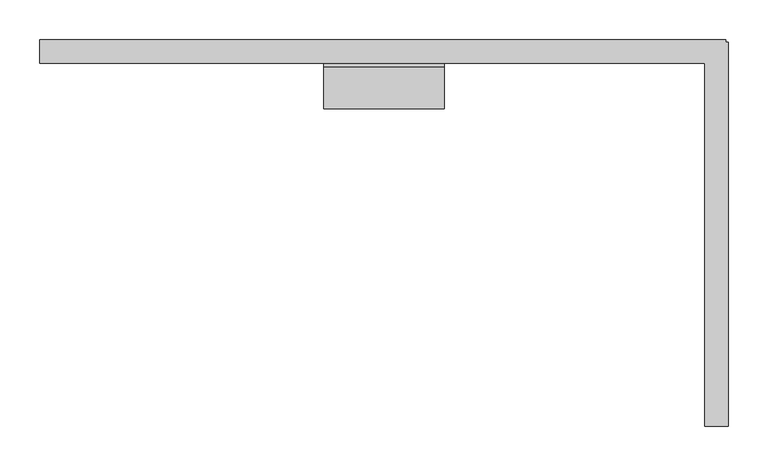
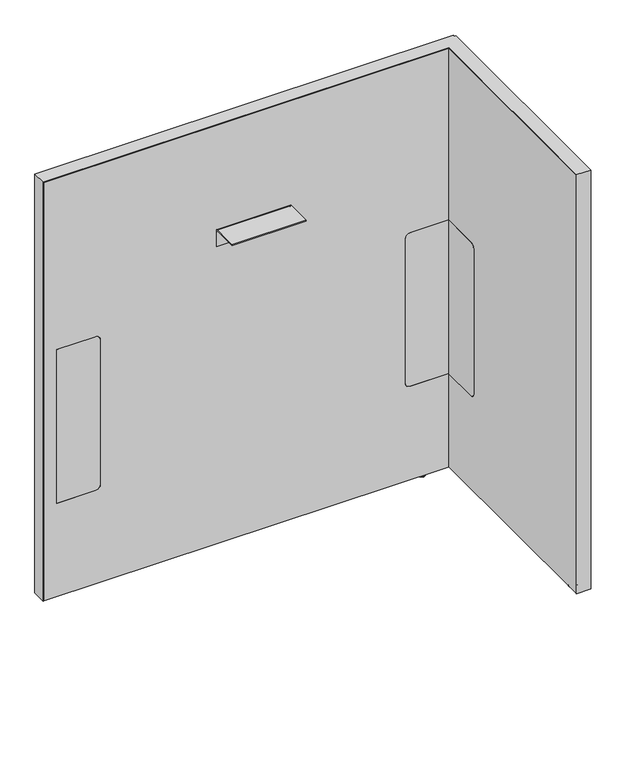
"""IFC4 building model written with IfcOpenShell, lengths in millimetres: furniture geometry, Steelcase - Answer Solution - Boundary Screen - L Return - Single Sided : 36H x 33W."""

from ifc_helpers import new_model, si_unit, point, frame, frame_2d, origin, place, context, project, spatial, polyline, circle_curve, ellipse_curve, trimmed, segment, composite_curve, outline, extrude, faceted_brep, source, transform, mapped, element, save
from ifc_brep_helpers import plane_surface, cylinder_surface, revolved_surface, advanced_brep


def furniture_d4964fc3(model_context):
    return source(origin(), model_context, "Body", "SolidModel", [
        extrude(outline(composite_curve([segment(polyline([(-109.3501471, 549.6162029), (-29.0550397, 549.6162029), (-29.0550397, 213.7762137), (-109.3501471, 213.7762137)]), True, "CONTINUOUS"), segment(trimmed(circle_curve(frame_2d((-109.3501471, 223.9362137)), 10.16), [point((-109.3501471, 213.7762137))], [point((-119.5101471, 223.9362137))], False, "CARTESIAN"), True, "CONTINUOUS"), segment(polyline([(-119.5101471, 223.9362137), (-119.5101471, 539.4562029)]), True, "CONTINUOUS"), segment(trimmed(circle_curve(frame_2d((-109.3501471, 539.4562029)), 10.16), [point((-119.5101471, 539.4562029))], [point((-109.3501471, 549.6162029))], False, "CARTESIAN"), True, "CONTINUOUS")], self_intersect=False)), frame((1068.0191891, 0.0, 0.0), z_axis=(1.0, 0.0, 0.0), x_axis=(0.0, 1.0, 0.0)), (0.0, 0.0, 1.0), 0.6401544),
        advanced_brep(
        [(1082.8672074, -448.0136072, 0.0), (1089.8216144, -448.0136072, 0.0), (1075.9128003, -448.0136072, 0.0), (1091.2762685, -448.0136072, 1.2700001), (1074.4581463, -448.0136072, 1.2700001), (1091.2762685, -448.0136072, 2.9673238), (1074.4581463, -448.0136072, 2.9673238), (1092.2427877, -448.0136072, 2.9673238), (1073.491627, -448.0136072, 2.9673238), (1092.2427877, -448.0136072, 9.9059849), (1073.491627, -448.0136072, 9.9059849), (1082.8672074, -448.0136072, 9.9059849)],
        [
            (0, 1),
            (1, 2, circle_curve(frame((1082.8672074, -448.0136072, 0.0), z_axis=(0.0, 0.0, -1.0), x_axis=(1.0, 0.0, 0.0)), 6.9544071)),
            (2, 0),
            (2, 1, circle_curve(frame((1082.8672074, -448.0136072, 0.0), z_axis=(0.0, 0.0, -1.0), x_axis=(1.0, 0.0, 0.0)), 6.9544071)),
            (1, 3, circle_curve(frame((1089.9945484, -448.0136072, 1.2700001), z_axis=(0.0, -1.0, 0.0), x_axis=(0.0, 0.0, 1.0)), 1.2817201)),
            (3, 4, circle_curve(frame((1082.8672074, -448.0136072, 1.2700001), z_axis=(0.0, 0.0, -1.0), x_axis=(1.0, 0.0, 0.0)), 8.4090611)),
            (4, 2, circle_curve(frame((1075.7398663, -448.0136072, 1.2700001), z_axis=(0.0, -1.0, 0.0), x_axis=(0.0, 0.0, 1.0)), 1.2817201)),
            (4, 3, circle_curve(frame((1082.8672074, -448.0136072, 1.2700001), z_axis=(0.0, 0.0, -1.0), x_axis=(1.0, 0.0, 0.0)), 8.4090611)),
            (3, 5),
            (5, 6, circle_curve(frame((1082.8672074, -448.0136072, 2.9673238), z_axis=(0.0, 0.0, -1.0), x_axis=(1.0, 0.0, 0.0)), 8.4090611)),
            (6, 4),
            (6, 5, circle_curve(frame((1082.8672074, -448.0136072, 2.9673238), z_axis=(0.0, 0.0, -1.0), x_axis=(1.0, 0.0, 0.0)), 8.4090611)),
            (5, 7),
            (7, 8, circle_curve(frame((1082.8672074, -448.0136072, 2.9673238), z_axis=(0.0, 0.0, -1.0), x_axis=(1.0, 0.0, 0.0)), 9.3755804)),
            (8, 6),
            (8, 7, circle_curve(frame((1082.8672074, -448.0136072, 2.9673238), z_axis=(0.0, 0.0, -1.0), x_axis=(1.0, 0.0, 0.0)), 9.3755804)),
            (7, 9),
            (9, 10, circle_curve(frame((1082.8672074, -448.0136072, 9.9059849), z_axis=(0.0, 0.0, -1.0), x_axis=(1.0, 0.0, 0.0)), 9.3755804)),
            (10, 8),
            (10, 9, circle_curve(frame((1082.8672074, -448.0136072, 9.9059849), z_axis=(0.0, 0.0, -1.0), x_axis=(1.0, 0.0, 0.0)), 9.3755804)),
            (9, 11),
            (11, 10),
        ],
        [
            plane_surface(frame((1082.8672074, -448.0136072, 0.0), z_axis=(0.0, 0.0, -1.0), x_axis=(1.0, 0.0, 0.0))),
            revolved_surface(trimmed(ellipse_curve(frame((1089.9945484, -448.0136072, 1.2700001), z_axis=(0.0, 1.0, 0.0), x_axis=(0.0, 0.0, 1.0)), 1.2817201, 1.2817201), [point((1091.2762685, -448.0136072, 1.2700001))], [point((1089.8216144, -448.0136072, 0.0))], True, "CARTESIAN"), (1082.8672074, -448.0136072, 9.9059849), (0.0, 0.0, -1.0)),
            cylinder_surface(frame((1082.8672074, -448.0136072, 9.9059849), z_axis=(0.0, 0.0, -1.0), x_axis=(1.0, 0.0, 0.0)), 8.4090611),
            plane_surface(frame((1082.8672074, -448.0136072, 2.9673238), z_axis=(0.0, 0.0, -1.0), x_axis=(1.0, 0.0, 0.0))),
            cylinder_surface(frame((1082.8672074, -448.0136072, 9.9059849), z_axis=(0.0, 0.0, -1.0), x_axis=(1.0, 0.0, 0.0)), 9.3755804),
            plane_surface(frame((1082.8672074, -448.0136072, 9.9059849), z_axis=(0.0, 0.0, 1.0), x_axis=(1.0, 0.0, 0.0))),
        ],
        [
            (0, [[1, 2, 3]]),
            (0, [[-3, 4, -1]]),
            (1, [[-2, 5, 6, 7]]),
            (1, [[-4, -7, 8, -5]]),
            (2, [[-6, 9, 10, 11]]),
            (2, [[-8, -11, 12, -9]]),
            (3, [[-10, 13, 14, 15]]),
            (3, [[-12, -15, 16, -13]]),
            (4, [[-14, 17, 18, 19]]),
            (4, [[-16, -19, 20, -17]]),
            (5, [[-18, 21, 22]]),
            (5, [[-20, -22, -21]]),
        ],
    ),
        faceted_brep([(1094.4531179, 0.0, 925.322), (1094.4531179, 0.0, 9.9059849), (1093.4621491, 0.0, 9.9059849), (1093.4621491, 0.0, 924.342118), (230.8097779, 0.0, 924.342118), (230.8097779, 0.0, 9.9059849), (229.8191891, 0.0, 9.9059849), (229.8191891, 0.0, 925.322), (229.8191891, -29.6898332, 925.322), (229.8191891, -29.6898332, 9.9059849), (230.8097779, -29.6898332, 9.9059849), (230.8097779, -29.6898332, 924.342118), (1068.0191891, -29.6898332, 924.342118), (1068.0191891, -29.6898332, 925.322), (1093.4621491, -29.6898332, 924.342118), (1093.4621491, -29.6898332, 9.9059849), (1094.4531179, -29.6898332, 9.9059849), (1094.4531179, -29.6898332, 924.342118), (1094.4531179, -3.2625916, 925.322), (1094.4531179, -3.2625916, 9.9059849), (1094.4531179, -4.252647, 9.9059849), (1094.4531179, -4.252647, 924.342118), (1097.7152256, -3.2625916, 9.9059849), (1097.7152256, -4.252647, 9.9059849), (1093.4621491, -4.252647, 9.9059849), (1068.0191891, -4.252647, 9.9059849), (1068.0191891, -3.2625916, 9.9059849), (1093.4621491, -3.2625916, 9.9059849), (1068.0191891, -486.8898332, 925.322), (1097.7152256, -486.8898332, 925.322), (1097.7152256, -3.2625916, 925.322), (1093.4621491, -3.2625916, 924.342118), (1093.4621491, -4.252647, 924.342118), (1068.0191891, -3.2625916, 924.342118), (1068.0191891, -4.252647, 924.342118), (1097.7152256, -4.252647, 924.342118), (1097.7152256, -485.899196, 924.342118), (1068.0191891, -485.899196, 924.342118), (1068.0191891, -485.899196, 9.9059849), (1068.0191891, -486.8898332, 9.9059849), (1097.7152256, -486.8898332, 9.9059849), (1097.7152256, -485.899196, 9.9059849)], [[[0, 1, 2, 3, 4, 5, 6, 7]], [[8, 9, 10, 11, 12, 13]], [[14, 15, 16, 17]], [[1, 0, 18, 19]], [[17, 16, 20, 21]], [[2, 1, 19, 22, 23, 20, 16, 15, 24, 25, 26, 27]], [[7, 6, 9, 8]], [[0, 7, 8, 13, 28, 29, 30, 18]], [[3, 2, 27, 31]], [[15, 14, 32, 24]], [[4, 3, 31, 33, 34, 32, 14, 17, 21, 35, 36, 37, 12, 11]], [[5, 4, 11, 10]], [[6, 5, 10, 9]], [[26, 25, 34, 33]], [[37, 38, 39, 28, 13, 12]], [[29, 40, 41, 36, 35, 23, 22, 30]], [[27, 26, 33, 31]], [[30, 22, 19, 18]], [[34, 25, 24, 32]], [[23, 35, 21, 20]], [[38, 37, 36, 41]], [[39, 38, 41, 40]], [[28, 39, 40, 29]]]),
        extrude(outline(composite_curve([segment(polyline([(-86.8398151, 696.4680019), (-86.8398151, 698.5), (-34.9450855, 698.5)]), True, "CONTINUOUS"), segment(trimmed(circle_curve(frame_2d((-34.9450855, 693.2447477)), 5.2552523), [point((-34.9450855, 698.5))], [point((-29.6898332, 693.2447477))], False, "CARTESIAN"), True, "CONTINUOUS"), segment(polyline([(-29.6898332, 693.2447477), (-29.6898332, 660.4), (-31.7218162, 660.4), (-31.7218162, 693.0058743)]), True, "CONTINUOUS"), segment(trimmed(circle_curve(frame_2d((-35.1839438, 693.0058743)), 3.4621276), [point((-31.7218162, 693.0058743))], [point((-35.1839438, 696.4680019))], True, "CARTESIAN"), True, "CONTINUOUS"), segment(polyline([(-35.1839438, 696.4680019), (-86.8398151, 696.4680019)]), True, "CONTINUOUS")], self_intersect=False)), frame((587.5685899, 0.0, 0.0), z_axis=(1.0, 0.0, 0.0), x_axis=(0.0, 1.0, 0.0)), (0.0, 0.0, 1.0), 152.4000969),
        advanced_brep(
        [(1020.5246853, -23.7588726, 9.9059849), (1020.5246853, -5.9309607, 9.9059849), (1020.5246853, -14.8449166, 9.9059849), (1020.5246853, -23.7588726, 2.9673238), (1020.5246853, -5.9309607, 2.9673238), (1020.5246853, -22.7915354, 2.9673238), (1020.5246853, -6.8982978, 2.9673238), (1020.5246853, -22.7915354, 1.6569081), (1020.5246853, -6.8982978, 1.6569081), (1020.5246853, -21.1346274, 0.0), (1020.5246853, -8.5552059, 0.0), (1020.5246853, -14.8449166, 0.0)],
        [
            (0, 1, circle_curve(frame((1020.5246853, -14.8449166, 9.9059849), z_axis=(0.0, 0.0, 1.0), x_axis=(0.0, 1.0, 0.0)), 8.913956)),
            (1, 2),
            (2, 0),
            (1, 0, circle_curve(frame((1020.5246853, -14.8449166, 9.9059849), z_axis=(0.0, 0.0, 1.0), x_axis=(0.0, 1.0, 0.0)), 8.913956)),
            (3, 4, circle_curve(frame((1020.5246853, -14.8449166, 2.9673238), z_axis=(0.0, 0.0, 1.0), x_axis=(0.0, 1.0, 0.0)), 8.913956)),
            (4, 1),
            (0, 3),
            (4, 3, circle_curve(frame((1020.5246853, -14.8449166, 2.9673238), z_axis=(0.0, 0.0, 1.0), x_axis=(0.0, 1.0, 0.0)), 8.913956)),
            (5, 6, circle_curve(frame((1020.5246853, -14.8449166, 2.9673238), z_axis=(0.0, 0.0, 1.0), x_axis=(0.0, 1.0, 0.0)), 7.9466188)),
            (6, 4),
            (3, 5),
            (6, 5, circle_curve(frame((1020.5246853, -14.8449166, 2.9673238), z_axis=(0.0, 0.0, 1.0), x_axis=(0.0, 1.0, 0.0)), 7.9466188)),
            (7, 8, circle_curve(frame((1020.5246853, -14.8449166, 1.6569081), z_axis=(0.0, 0.0, 1.0), x_axis=(0.0, 1.0, 0.0)), 7.9466188)),
            (8, 6),
            (5, 7),
            (8, 7, circle_curve(frame((1020.5246853, -14.8449166, 1.6569081), z_axis=(0.0, 0.0, 1.0), x_axis=(0.0, 1.0, 0.0)), 7.9466188)),
            (9, 10, circle_curve(frame((1020.5246853, -14.8449166, 0.0), z_axis=(0.0, 0.0, 1.0), x_axis=(0.0, 1.0, 0.0)), 6.2897107)),
            (10, 8, circle_curve(frame((1020.5246853, -8.5552059, 1.6569081), z_axis=(1.0, 0.0, 0.0), x_axis=(0.0, 1.0, 0.0)), 1.6569081)),
            (7, 9, circle_curve(frame((1020.5246853, -21.1346274, 1.6569081), z_axis=(1.0, 0.0, 0.0), x_axis=(0.0, -1.0, 0.0)), 1.6569081)),
            (10, 9, circle_curve(frame((1020.5246853, -14.8449166, 0.0), z_axis=(0.0, 0.0, 1.0), x_axis=(0.0, 1.0, 0.0)), 6.2897107)),
            (11, 10),
            (9, 11),
        ],
        [
            plane_surface(frame((1020.5246853, -14.8449166, 9.9059849), z_axis=(0.0, 0.0, 1.0), x_axis=(0.0, 1.0, 0.0))),
            cylinder_surface(frame((1020.5246853, -14.8449166, 9.9059849), z_axis=(0.0, 0.0, -1.0), x_axis=(0.0, 1.0, 0.0)), 8.913956),
            plane_surface(frame((1020.5246853, -14.8449166, 2.9673238), z_axis=(0.0, 0.0, -1.0), x_axis=(0.0, 1.0, 0.0))),
            cylinder_surface(frame((1020.5246853, -14.8449166, 9.9059849), z_axis=(0.0, 0.0, -1.0), x_axis=(0.0, 1.0, 0.0)), 7.9466188),
            revolved_surface(trimmed(ellipse_curve(frame((1020.5246853, -8.5552059, 1.6569081), z_axis=(-1.0, 0.0, 0.0), x_axis=(0.0, 1.0, 0.0)), 1.6569081, 1.6569081), [point((1020.5246853, -6.8982978, 1.6569081))], [point((1020.5246853, -8.5552059, 0.0))], True, "CARTESIAN"), (1020.5246853, -14.8449166, 9.9059849), (0.0, 0.0, -1.0)),
            plane_surface(frame((1020.5246853, -14.8449166, 0.0), z_axis=(0.0, 0.0, -1.0), x_axis=(0.0, 1.0, 0.0))),
        ],
        [
            (0, [[1, 2, 3]]),
            (0, [[4, -3, -2]]),
            (1, [[5, 6, -1, 7]]),
            (1, [[8, -7, -4, -6]]),
            (2, [[9, 10, -5, 11]]),
            (2, [[12, -11, -8, -10]]),
            (3, [[13, 14, -9, 15]]),
            (3, [[16, -15, -12, -14]]),
            (4, [[17, 18, -13, 19]]),
            (4, [[20, -19, -16, -18]]),
            (5, [[21, -17, 22]]),
            (5, [[-22, -20, -21]]),
        ],
    ),
        advanced_brep(
        [(230.8097779, 0.0, 924.342118), (1093.4621491, 0.0, 924.342118), (1093.4621491, 0.0, 9.9059849), (230.8097779, 0.0, 9.9059849), (347.9483813, -29.0550397, 539.4562029), (337.7883813, -29.0550397, 549.6162029), (258.1344836, -29.0550397, 549.6162029), (258.1344836, -29.0550397, 213.7762137), (337.7883813, -29.0550397, 213.7762137), (347.9483813, -29.0550397, 223.9362137), (1068.6593435, -29.0550397, 213.7762137), (1068.6593435, -29.0550397, 549.6162029), (988.1109268, -29.0550397, 549.6162029), (977.9509268, -29.0550397, 539.4562029), (977.9509268, -29.0550397, 223.9362137), (988.1109268, -29.0550397, 213.7762137), (230.8097779, -29.6898332, 924.342118), (230.8097779, -29.6898332, 9.9059849), (1068.0191891, -29.6898332, 9.9059849), (1068.0191891, -29.6898332, 213.7762137), (988.1109268, -29.6898332, 213.7762137), (977.9509268, -29.6898332, 223.9362137), (977.9509268, -29.6898332, 539.4562029), (988.1109268, -29.6898332, 549.6162029), (1068.0191891, -29.6898332, 549.6162029), (1068.0191891, -29.6898332, 924.342118), (337.7883813, -29.6898332, 549.6162029), (347.9483813, -29.6898332, 539.4562029), (347.9483813, -29.6898332, 223.9362137), (337.7883813, -29.6898332, 213.7762137), (258.1344836, -29.6898332, 213.7762137), (258.1344836, -29.6898332, 549.6162029), (1093.4621491, -4.252647, 9.9059849), (1097.7152256, -4.252647, 9.9059849), (1097.7152256, -485.899196, 9.9059849), (1068.0191891, -485.899196, 9.9059849), (1093.4621491, -4.252647, 924.342118), (1068.0191891, -485.899196, 924.342118), (1097.7152256, -485.899196, 924.342118), (1097.7152256, -4.252647, 924.342118), (1068.6593435, -109.3501471, 549.6162029), (1068.0191891, -109.3501471, 549.6162029), (1068.6593435, -109.3501471, 213.7762137), (1068.6593435, -119.5101471, 223.9362137), (1068.6593435, -119.5101471, 539.4562029), (1068.0191891, -109.3501471, 213.7762137), (1068.0191891, -119.5101471, 539.4562029), (1068.0191891, -119.5101471, 223.9362137)],
        [
            (0, 1),
            (1, 2),
            (2, 3),
            (3, 0),
            (4, 5, circle_curve(frame((337.7883813, -29.0550397, 539.4562029), z_axis=(0.0, -1.0, 0.0), x_axis=(0.0, 0.0, 1.0)), 10.16)),
            (5, 6),
            (6, 7),
            (7, 8),
            (8, 9, circle_curve(frame((337.7883813, -29.0550397, 223.9362137), z_axis=(0.0, -1.0, 0.0), x_axis=(0.0, 0.0, 1.0)), 10.16)),
            (9, 4),
            (10, 11),
            (11, 12),
            (12, 13, circle_curve(frame((988.1109268, -29.0550397, 539.4562029), z_axis=(0.0, -1.0, 0.0), x_axis=(0.0, 0.0, 1.0)), 10.16)),
            (13, 14),
            (14, 15, circle_curve(frame((988.1109268, -29.0550397, 223.9362137), z_axis=(0.0, -1.0, 0.0), x_axis=(0.0, 0.0, 1.0)), 10.16)),
            (15, 10),
            (16, 17),
            (17, 18),
            (18, 19),
            (19, 20),
            (20, 21, circle_curve(frame((988.1109268, -29.6898332, 223.9362137), z_axis=(0.0, 1.0, 0.0), x_axis=(0.0, 0.0, 1.0)), 10.16)),
            (21, 22),
            (22, 23, circle_curve(frame((988.1109268, -29.6898332, 539.4562029), z_axis=(0.0, 1.0, 0.0), x_axis=(0.0, 0.0, 1.0)), 10.16)),
            (23, 24),
            (24, 25),
            (25, 16),
            (26, 27, circle_curve(frame((337.7883813, -29.6898332, 539.4562029), z_axis=(0.0, 1.0, 0.0), x_axis=(0.0, 0.0, 1.0)), 10.16)),
            (27, 28),
            (28, 29, circle_curve(frame((337.7883813, -29.6898332, 223.9362137), z_axis=(0.0, 1.0, 0.0), x_axis=(0.0, 0.0, 1.0)), 10.16)),
            (29, 30),
            (30, 31),
            (31, 26),
            (16, 0),
            (3, 17),
            (2, 32),
            (32, 33),
            (33, 34),
            (34, 35),
            (35, 18),
            (1, 36),
            (36, 32),
            (25, 37),
            (37, 38),
            (38, 39),
            (39, 36),
            (26, 5),
            (4, 27),
            (9, 28),
            (8, 29),
            (7, 30),
            (6, 31),
            (11, 40),
            (40, 41),
            (41, 24),
            (23, 12),
            (42, 43, circle_curve(frame((1068.6593435, -109.3501471, 223.9362137), z_axis=(-1.0, 0.0, 0.0), x_axis=(0.0, 1.0, 0.0)), 10.16)),
            (43, 44),
            (44, 40, circle_curve(frame((1068.6593435, -109.3501471, 539.4562029), z_axis=(-1.0, 0.0, 0.0), x_axis=(0.0, 1.0, 0.0)), 10.16)),
            (10, 42),
            (15, 20),
            (19, 45),
            (45, 42),
            (14, 21),
            (13, 22),
            (35, 37),
            (41, 46, circle_curve(frame((1068.0191891, -109.3501471, 539.4562029), z_axis=(1.0, 0.0, 0.0), x_axis=(0.0, 1.0, 0.0)), 10.16)),
            (46, 47),
            (47, 45, circle_curve(frame((1068.0191891, -109.3501471, 223.9362137), z_axis=(1.0, 0.0, 0.0), x_axis=(0.0, 1.0, 0.0)), 10.16)),
            (38, 34),
            (33, 39),
            (44, 46),
            (43, 47),
        ],
        [
            plane_surface(frame((347.9483813, 0.0, 549.6162029), z_axis=(0.0, 1.0, 0.0), x_axis=(0.0, 0.0, -1.0))),
            plane_surface(frame((347.9483813, -29.0550397, 549.6162029), z_axis=(0.0, -1.0, 0.0), x_axis=(0.0, 0.0, 1.0))),
            plane_surface(frame((1093.4621491, -29.6898332, 924.342118), z_axis=(0.0, -1.0, 0.0), x_axis=(-1.0, 0.0, 0.0))),
            plane_surface(frame((230.8097779, 0.0, 9.9059849), z_axis=(-1.0, 0.0, 0.0), x_axis=(0.0, -1.0, 0.0))),
            plane_surface(frame((1093.4621491, 0.0, 9.9059849), z_axis=(0.0, 0.0, -1.0), x_axis=(0.0, -1.0, 0.0))),
            plane_surface(frame((1093.4621491, 0.0, 924.342118), z_axis=(1.0, 0.0, 0.0), x_axis=(0.0, -1.0, 0.0))),
            plane_surface(frame((230.8097779, 0.0, 924.342118), z_axis=(0.0, 0.0, 1.0), x_axis=(0.0, -1.0, 0.0))),
            revolved_surface(polyline([(337.7883813, -29.6898332, 549.6162029), (337.7883813, -29.0550397, 549.6162029)]), (337.7883813, -29.6898332, 539.4562029), (0.0, -1.0, 0.0)),
            plane_surface(frame((347.9483813, 0.0, 223.9362137), z_axis=(-1.0, 0.0, 0.0), x_axis=(0.0, -1.0, 0.0))),
            revolved_surface(polyline([(337.7883813, -29.6898332, 234.0962137), (337.7883813, -29.0550397, 234.0962137)]), (337.7883813, -29.6898332, 223.9362137), (0.0, -1.0, 0.0)),
            plane_surface(frame((258.1344836, 0.0, 213.7762137), z_axis=(0.0, 0.0, 1.0), x_axis=(0.0, -1.0, 0.0))),
            plane_surface(frame((258.1344836, 0.0, 549.6162029), z_axis=(1.0, 0.0, 0.0), x_axis=(0.0, -1.0, 0.0))),
            plane_surface(frame((337.7883813, 0.0, 549.6162029), z_axis=(0.0, 0.0, -1.0), x_axis=(0.0, -1.0, 0.0))),
            plane_surface(frame((1068.6593435, 0.0, 549.6162029), z_axis=(0.0, 0.0, -1.0), x_axis=(0.0, -1.0, 0.0))),
            plane_surface(frame((1068.6593435, 0.0, 213.7762137), z_axis=(-1.0, 0.0, 0.0), x_axis=(0.0, -1.0, 0.0))),
            plane_surface(frame((988.1109268, 0.0, 213.7762137), z_axis=(0.0, 0.0, 1.0), x_axis=(0.0, -1.0, 0.0))),
            revolved_surface(polyline([(988.1109268, -29.6898332, 234.0962137), (988.1109268, -29.0550397, 234.0962137)]), (988.1109268, -29.6898332, 223.9362137), (0.0, -1.0, 0.0)),
            plane_surface(frame((977.9509268, 0.0, 539.4562029), z_axis=(1.0, 0.0, 0.0), x_axis=(0.0, -1.0, 0.0))),
            revolved_surface(polyline([(988.1109268, -29.6898332, 549.6162029), (988.1109268, -29.0550397, 549.6162029)]), (988.1109268, -29.6898332, 539.4562029), (0.0, -1.0, 0.0)),
            plane_surface(frame((1068.0191891, -485.899196, 924.342118), z_axis=(-1.0, 0.0, 0.0), x_axis=(0.0, 0.0, 1.0))),
            plane_surface(frame((1097.7152256, -485.899196, 924.342118), z_axis=(1.0, 0.0, 0.0), x_axis=(0.0, 0.0, -1.0))),
            plane_surface(frame((1097.7152256, -4.252647, 9.9059849), z_axis=(0.0, 1.0, 0.0), x_axis=(-1.0, 0.0, 0.0))),
            plane_surface(frame((1097.7152256, -485.899196, 924.342118), z_axis=(0.0, -1.0, 0.0), x_axis=(-1.0, 0.0, 0.0))),
            revolved_surface(polyline([(1068.0191891, -99.1901471, 539.4562029), (1068.6593435, -99.1901471, 539.4562029)]), (-340.6902705, -109.3501471, 539.4562029), (-1.0, 0.0, 0.0)),
            plane_surface(frame((1097.7152256, -119.5101471, 223.9362137), z_axis=(0.0, 1.0, 0.0), x_axis=(-1.0, 0.0, 0.0))),
            revolved_surface(polyline([(1068.0191891, -99.1901471, 223.9362137), (1068.6593435, -99.1901471, 223.9362137)]), (-340.6902705, -109.3501471, 223.9362137), (-1.0, 0.0, 0.0)),
        ],
        [
            (0, [[1, 2, 3, 4]]),
            (1, [[5, 6, 7, 8, 9, 10]]),
            (1, [[11, 12, 13, 14, 15, 16]]),
            (2, [[17, 18, 19, 20, 21, 22, 23, 24, 25, 26], [27, 28, 29, 30, 31, 32]]),
            (3, [[-17, 33, -4, 34]]),
            (4, [[-3, 35, 36, 37, 38, 39, -18, -34]]),
            (5, [[-2, 40, 41, -35]]),
            (6, [[-1, -33, -26, 42, 43, 44, 45, -40]]),
            (7, [[-27, 46, -5, 47]]),
            (8, [[-28, -47, -10, 48]]),
            (9, [[-29, -48, -9, 49]]),
            (10, [[-30, -49, -8, 50]]),
            (11, [[-31, -50, -7, 51]]),
            (12, [[-32, -51, -6, -46]]),
            (13, [[52, 53, 54, -24, 55, -12]]),
            (14, [[56, 57, 58, -52, -11, 59]]),
            (15, [[-59, -16, 60, -20, 61, 62]]),
            (16, [[-21, -60, -15, 63]]),
            (17, [[-22, -63, -14, 64]]),
            (18, [[-23, -64, -13, -55]]),
            (19, [[65, -42, -25, -54, 66, 67, 68, -61, -19, -39]]),
            (20, [[69, -37, 70, -44]]),
            (21, [[-70, -36, -41, -45]]),
            (22, [[-65, -38, -69, -43]]),
            (23, [[-66, -53, -58, 71]]),
            (24, [[-67, -71, -57, 72]]),
            (25, [[-68, -72, -56, -62]]),
        ],
    ),
        extrude(outline(composite_curve([segment(polyline([(549.6162029, 337.7883813), (549.6162029, 258.1344836), (213.7762137, 258.1344836), (213.7762137, 337.7883813)]), True, "CONTINUOUS"), segment(trimmed(circle_curve(frame_2d((223.9362137, 337.7883813)), 10.16), [point((213.7762137, 337.7883813))], [point((223.9362137, 347.9483813))], False, "CARTESIAN"), True, "CONTINUOUS"), segment(polyline([(223.9362137, 347.9483813), (539.4562029, 347.9483813)]), True, "CONTINUOUS"), segment(trimmed(circle_curve(frame_2d((539.4562029, 337.7883813)), 10.16), [point((539.4562029, 347.9483813))], [point((549.6162029, 337.7883813))], False, "CARTESIAN"), True, "CONTINUOUS")], self_intersect=False)), frame((0.0, -29.6898332, 0.0), z_axis=(0.0, 1.0, 0.0), x_axis=(0.0, 0.0, 1.0)), (0.0, 0.0, 1.0), 0.6347935),
        extrude(outline(composite_curve([segment(trimmed(circle_curve(frame_2d((539.4562029, 988.1109268)), 10.16), [point((549.6162029, 988.1109268))], [point((539.4562029, 977.9509268))], False, "CARTESIAN"), True, "CONTINUOUS"), segment(polyline([(539.4562029, 977.9509268), (223.9362137, 977.9509268)]), True, "CONTINUOUS"), segment(trimmed(circle_curve(frame_2d((223.9362137, 988.1109268)), 10.16), [point((223.9362137, 977.9509268))], [point((213.7762137, 988.1109268))], False, "CARTESIAN"), True, "CONTINUOUS"), segment(polyline([(213.7762137, 988.1109268), (213.7762137, 1068.0191891), (549.6162029, 1068.0191891), (549.6162029, 988.1109268)]), True, "CONTINUOUS")], self_intersect=False)), frame((0.0, -29.6898332, 0.0), z_axis=(0.0, 1.0, 0.0), x_axis=(0.0, 0.0, 1.0)), (0.0, 0.0, 1.0), 0.6347935),
    ])


if __name__ == "__main__":
    model = new_model("IFC4")
    model_context = context("Model", 3, world=origin())
    ifc_project = project(units=[si_unit("LENGTHUNIT", "METRE", prefix="MILLI")], contexts=[model_context])
    site = spatial("IfcSite", under=ifc_project)
    building = spatial("IfcBuilding", under=site)
    placement = place(None, origin())
    furniture_shape = furniture_d4964fc3(model_context)
    element("IfcFurniture", 1, ObjectType="Steelcase - Answer Solution - Boundary Screen - L Return - Single Sided : 36H x 33W", at=placement, inside=building, context=model_context, shape_type="MappedRepresentation", body=[
        mapped(furniture_shape, transform((0.0, 0.0, 0.0), x_axis=(1.0, 0.0, 0.0), y_axis=(0.0, 1.0, 0.0), z_axis=(0.0, 0.0, 1.0))),
    ])
    save(model, "model.ifc")
